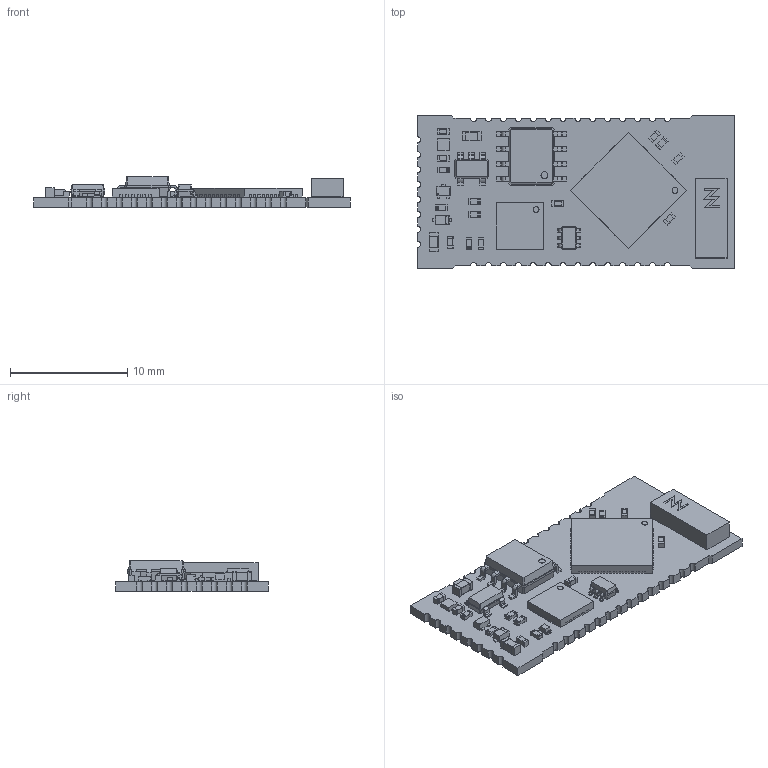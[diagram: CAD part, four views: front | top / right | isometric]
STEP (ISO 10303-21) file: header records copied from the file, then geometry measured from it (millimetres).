
FILE_DESCRIPTION(/* description */ (''),/* implementation_level */ '2;1');
FILE_NAME(/* name */ '/Users/seon/Dropbox/Unexpected Maker/Repositories/TinyPICO/tinypico-hardware/STL Files/TinyPICO Nano.step',/* time_stamp */ '2021-05-19T14:01:38+10:00',/* author */ (''),/* organization */ (''),/* preprocessor_version */ 'ST-DEVELOPER v18.1',/* originating_system */ 'Autodesk Translation Framework v10.6.0.1341',/* authorisation */ '');
FILE_SCHEMA (('AUTOMOTIVE_DESIGN { 1 0 10303 214 3 1 1 }'));
Length unit declared in the file: millimetre
Products named in the file (28): TinyPICO Nano; SOT-723; COMPOUND; C_0603_1608Metric; SOLID (2); NCP170AMX170TCG; COMPOUND (1); QFN-24-1EP_4x4mm_P0.5mm_EP2.6x2.6mm; SOLID (3); SOIC-8_3.9x4.9mm_P1.27mm; SOLID (4); SOT-363_SC-70-6; SOLID (5); D_SOD-523; SOLID (6); NN02-232--3DModel-STEP-1; COMPOUND (2); QFN-48-1EP_7x7mm_P0.5mm_EP5.15x5.15mm; SOLID (7); C_0402_1005Metric; SOLID (1); LED_0402_1005Metric; SOLID (8); R_0402_1005Metric; SOLID; SOT-23-5; SOLID (9); COMPOUND (3)
Assembly tree (39 placements, depth 3):
  TinyPICO Nano
    SOT-723
      COMPOUND
    R_0402_1005Metric  x6
      SOLID
    C_0402_1005Metric  x7
      SOLID (1)
    C_0603_1608Metric  x2
      SOLID (2)
    NCP170AMX170TCG
      COMPOUND (1)
    QFN-24-1EP_4x4mm_P0.5mm_EP2.6x2.6mm
      SOLID (3)
    SOIC-8_3.9x4.9mm_P1.27mm
      SOLID (4)
    SOT-363_SC-70-6
      SOLID (5)
    D_SOD-523
      SOLID (6)
    NN02-232--3DModel-STEP-1
      COMPOUND (2)
    QFN-48-1EP_7x7mm_P0.5mm_EP5.15x5.15mm
      SOLID (7)
    LED_0402_1005Metric
      SOLID (8)
    SOT-23-5
      SOLID (9)
    COMPOUND (3)
Bounding box: 27 x 13 x 2.6 mm (x, y, z)
Volume: 392.2 mm3; surface area: 1157.6 mm2
Topology: 35 solids, 35 shells, 1547 faces, 4143 edges, 2694 vertices
Faces by surface type: plane 1192, cylinder 335, bspline 20
Full cylindrical faces by diameter (mm): 0.095 x2, 0.5 x2, 0.6 x1
Entity records: 39683 total; most frequent: CARTESIAN_POINT 6826, ORIENTED_EDGE 6598, DIRECTION 6299, EDGE_CURVE 3299, LINE 2837, VECTOR 2837, VERTEX_POINT 2138, AXIS2_PLACEMENT_3D 1731
